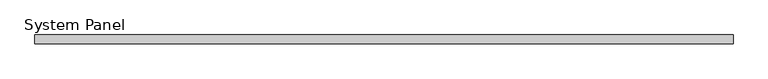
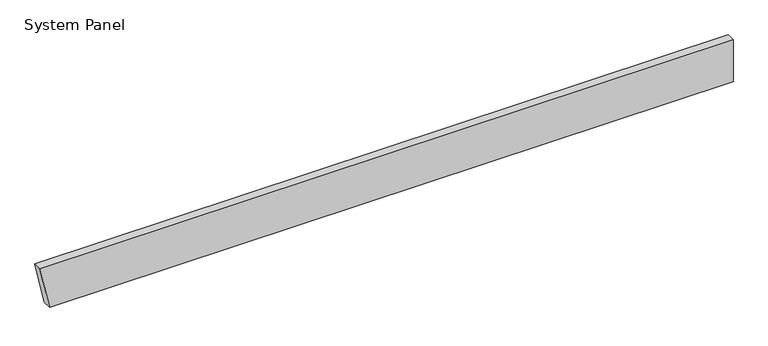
"""IFC4 building model written with IfcOpenShell, lengths in millimetres: plate geometry, System Panel : MetecnoPanel 75mm Horizontal - Plain Astro - PIR."""

import ifcopenshell
import ifcopenshell.guid

model = None  # the IFC model being written
_history = None  # IfcOwnerHistory: only IFC2X3 demands one
_inside = {}  # id of a spatial element -> (the spatial element, [elements in it])
_under = {}  # id of a project, library or spatial element -> (it, [spatial elements below it])
_declared = {}  # id of a project -> (the project, [libraries it declares])
_typed = {}  # id of a type object -> (the type object, [elements of that type])
_made_of = {}  # id of a material, layer set ... -> (it, [elements and type objects made of it])


def new_model(schema):
    """Start an empty IFC model of exactly this schema.

    Asked for "IFC4X3", IfcOpenShell would pick the latest addendum, in which some entities
    have other attributes; the version numbers below select the first issue.
    IFC2X3 requires an IfcOwnerHistory on every rooted entity: one is made here for all.
    """
    global model, _history
    if schema == "IFC4X3":
        model = ifcopenshell.file(schema_version=(4, 3, 0, 0))
    else:
        model = ifcopenshell.file(schema=schema)
    _inside.clear()
    _under.clear()
    _declared.clear()
    _typed.clear()
    _made_of.clear()
    _history = None
    if model.schema == "IFC2X3":
        org = make("IfcOrganization", Name="unknown")
        user = make(
            "IfcPersonAndOrganization",
            ThePerson=make("IfcPerson", FamilyName="unknown"),
            TheOrganization=org,
        )
        app = make(
            "IfcApplication",
            ApplicationDeveloper=org,
            Version="unknown",
            ApplicationFullName="unknown",
            ApplicationIdentifier="unknown",
        )
        _history = make(
            "IfcOwnerHistory",
            OwningUser=user,
            OwningApplication=app,
            ChangeAction="ADDED",
            CreationDate=0,
        )
    return model


def make(cls, **values):
    """One entity of the class cls with the attributes given. An attribute that is None is left unset."""
    return model.create_entity(
        cls, **{name: value for name, value in values.items() if value is not None}
    )


def rooted(cls, **values):
    """An entity with a GlobalId (a new one), such as an element, a storey or a relation."""
    return make(cls, GlobalId=ifcopenshell.guid.new(), OwnerHistory=_history, **values)


def si_unit(unit_type, name, prefix=None):
    """IfcSIUnit, for example si_unit("LENGTHUNIT", "METRE", prefix="MILLI")."""
    return make("IfcSIUnit", UnitType=unit_type, Prefix=prefix, Name=name)


def assignment(units):
    """IfcUnitAssignment: the units of a project."""
    return None if units is None else make("IfcUnitAssignment", Units=units)


def point(xyz):
    """IfcCartesianPoint."""
    return None if xyz is None else make("IfcCartesianPoint", Coordinates=xyz)


def direction(xyz):
    """IfcDirection."""
    return None if xyz is None else make("IfcDirection", DirectionRatios=xyz)


def frame(location, z_axis=None, x_axis=None):
    """IfcAxis2Placement3D, a coordinate frame: its origin and axes. An axis left out is left unset."""
    return make(
        "IfcAxis2Placement3D",
        Location=point(location),
        Axis=direction(z_axis),
        RefDirection=direction(x_axis),
    )


def origin():
    """The frame at (0, 0, 0) with its axes left unset."""
    return frame((0.0, 0.0, 0.0))


def place(relative_to, where):
    """IfcLocalPlacement: puts the frame where relative to a parent placement (None: the world)."""
    return make(
        "IfcLocalPlacement", PlacementRelTo=relative_to, RelativePlacement=where
    )


def context(
    kind, dimensions, precision=None, world=None, true_north=None, identifier=None
):
    """IfcGeometricRepresentationContext, for example the 3D "Model" context."""
    return make(
        "IfcGeometricRepresentationContext",
        ContextIdentifier=identifier,
        ContextType=kind,
        CoordinateSpaceDimension=dimensions,
        Precision=precision,
        WorldCoordinateSystem=world,
        TrueNorth=true_north,
    )


def project(units=None, contexts=None):
    """IfcProject with its units and contexts."""
    return rooted(
        "IfcProject",
        Name="project",
        RepresentationContexts=contexts,
        UnitsInContext=assignment(units),
    )


def spatial(cls, under=None, at=None, **own):
    """A site, building, storey or space (cls), placed at a placement, below another one or the project."""
    s = rooted(cls, ObjectPlacement=at, **own)
    if under is not None:
        _under.setdefault(under.id(), (under, []))[1].append(s)
    return s


def polyline(points):
    """IfcPolyline through the points."""
    return make("IfcPolyline", Points=[point(p) for p in points])


def outline(outer, holes=None, kind="AREA"):
    """IfcArbitraryClosedProfileDef: a profile drawn as a closed curve; with holes, ...WithVoids."""
    if holes is None:
        return make("IfcArbitraryClosedProfileDef", ProfileType=kind, OuterCurve=outer)
    return make(
        "IfcArbitraryProfileDefWithVoids",
        ProfileType=kind,
        OuterCurve=outer,
        InnerCurves=holes,
    )


def extrude(swept, where, along, depth):
    """IfcExtrudedAreaSolid: the profile swept, set in the frame where, extruded along a direction by depth."""
    return make(
        "IfcExtrudedAreaSolid",
        SweptArea=swept,
        Position=where,
        ExtrudedDirection=direction(along),
        Depth=depth,
    )


def shape(context_of_items, identifier, shape_type, items):
    """IfcShapeRepresentation: the items that make up one representation, for example the "Body"."""
    return make(
        "IfcShapeRepresentation",
        ContextOfItems=context_of_items,
        RepresentationIdentifier=identifier,
        RepresentationType=shape_type,
        Items=items,
    )


def source(mapping_origin, context_of_items, identifier, shape_type, items):
    """IfcRepresentationMap: a shape defined once, which mapped items show again and again."""
    return make(
        "IfcRepresentationMap",
        MappingOrigin=mapping_origin,
        MappedRepresentation=shape(context_of_items, identifier, shape_type, items),
    )


def transform(
    local_origin,
    x_axis=None,
    y_axis=None,
    z_axis=None,
    scale=None,
    scale2=None,
    scale3=None,
    uniform=True,
):
    """IfcCartesianTransformationOperator3D, or its non-uniform kind. x_axis, y_axis, z_axis: its Axis1, 2, 3."""
    if uniform:
        return make(
            "IfcCartesianTransformationOperator3D",
            Axis1=direction(x_axis),
            Axis2=direction(y_axis),
            LocalOrigin=point(local_origin),
            Scale=scale,
            Axis3=direction(z_axis),
        )
    return make(
        "IfcCartesianTransformationOperator3DnonUniform",
        Axis1=direction(x_axis),
        Axis2=direction(y_axis),
        LocalOrigin=point(local_origin),
        Scale=scale,
        Axis3=direction(z_axis),
        Scale2=scale2,
        Scale3=scale3,
    )


def mapped(mapping_source, mapping_target):
    """IfcMappedItem: shows the shape of a source again, moved by a transform."""
    return make(
        "IfcMappedItem", MappingSource=mapping_source, MappingTarget=mapping_target
    )


def made_of(thing, what):
    """Note that an element or type object is made of a material, layer set ...; save() writes the relation."""
    if what is not None:
        _made_of.setdefault(what.id(), (what, []))[1].append(thing)
    return thing


def element(
    cls,
    number,
    at=None,
    inside=None,
    cuts=None,
    type_object=None,
    material=None,
    context=None,
    identifier="Body",
    shape_type=None,
    held_by="IfcProductDefinitionShape",
    body=None,
    shapes=None,
    **own,
):
    """One element of the class cls, such as IfcWall. Its Tag is "e" and its number.

    at: its placement. inside: the storey or other place that contains it. cuts: it is an
    opening in that element (IfcRelVoidsElement). A single representation is given by context,
    identifier, shape_type and body (its items); several are given by shapes. held_by: the class
    of the entity that holds the representations. save() writes the other relations.
    """
    e = rooted(cls, Tag="e%d" % number, ObjectPlacement=at, **own)
    if body is not None:
        shapes = [shape(context, identifier, shape_type, body)]
    if shapes is not None:
        e.Representation = make(held_by, Representations=shapes)
    if inside is not None:
        _inside.setdefault(inside.id(), (inside, []))[1].append(e)
    if cuts is not None:
        rooted(
            "IfcRelVoidsElement", RelatingBuildingElement=cuts, RelatedOpeningElement=e
        )
    if type_object is not None:
        _typed.setdefault(type_object.id(), (type_object, []))[1].append(e)
    return made_of(e, material)


def aggregate(whole, parts):
    """IfcRelAggregates: a whole, such as a stair, and the parts it consists of."""
    return rooted("IfcRelAggregates", RelatingObject=whole, RelatedObjects=parts)


def save(model, path):
    """Write the relations noted so far, then the file.

    IfcRelAggregates (storeys below a building ...), IfcRelContainedInSpatialStructure (elements
    in a storey), IfcRelDefinesByType, IfcRelAssociatesMaterial and IfcRelDeclares: one each for
    every whole, place, type object, material and project.
    """
    for whole, parts in _under.values():
        aggregate(whole, parts)
    for where, things in _inside.values():
        rooted(
            "IfcRelContainedInSpatialStructure",
            RelatedElements=things,
            RelatingStructure=where,
        )
    for kind, things in _typed.values():
        rooted("IfcRelDefinesByType", RelatedObjects=things, RelatingType=kind)
    for what, things in _made_of.values():
        rooted("IfcRelAssociatesMaterial", RelatedObjects=things, RelatingMaterial=what)
    for by, libraries in _declared.values():
        rooted("IfcRelDeclares", RelatingContext=by, RelatedDefinitions=libraries)
    model.write(path)


def system_panel_9b4c1542(model_context):
    return source(origin(), model_context, "Body", "SweptSolid", [
        extrude(outline(polyline([(0.0, -2907.3970701), (0.0, 2990.0), (379.9704237, 2990.0), (379.9704237, -2990.0), (0.0, -2907.3970701)])), frame((0.0, -75.0, 0.0), z_axis=(0.0, 1.0, 0.0), x_axis=(0.0, 0.0, 1.0)), (0.0, 0.0, 1.0), 75.0),
    ])


if __name__ == "__main__":
    model = new_model("IFC4")
    model_context = context("Model", 3, world=origin())
    ifc_project = project(units=[si_unit("LENGTHUNIT", "METRE", prefix="MILLI")], contexts=[model_context])
    site = spatial("IfcSite", under=ifc_project)
    building = spatial("IfcBuilding", under=site)
    placement = place(None, origin())
    system_panel_shape = system_panel_9b4c1542(model_context)
    element("IfcPlate", 1, ObjectType="System Panel : MetecnoPanel 75mm Horizontal - Plain Astro - PIR", at=placement, inside=building, context=model_context, shape_type="MappedRepresentation", body=[
        mapped(system_panel_shape, transform((0.0, 0.0, 0.0), x_axis=(1.0, 0.0, 0.0), y_axis=(0.0, 1.0, 0.0), z_axis=(0.0, 0.0, 1.0))),
    ])
    save(model, "model.ifc")
